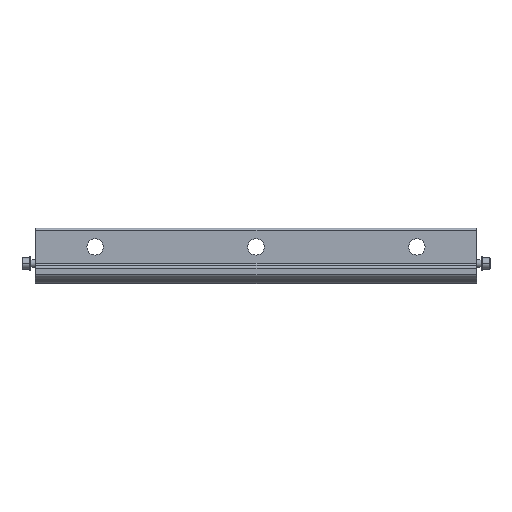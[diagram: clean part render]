
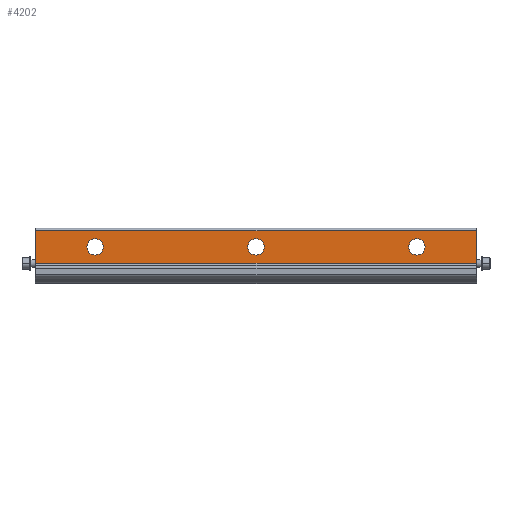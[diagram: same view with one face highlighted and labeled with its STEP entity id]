
A CAD part, top view. The second image highlights one B-rep face of the part: STEP entity #4202.
In plain terms, the highlighted planar face has unit normal (0, 0, 1).
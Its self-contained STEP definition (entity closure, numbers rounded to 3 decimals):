
#126 = FACE_BOUND ( 'NONE', #8736, .T. ) ;
#158 = VERTEX_POINT ( 'NONE', #2900 ) ;
#203 = DIRECTION ( 'NONE',  ( 0., -1., 0. ) ) ;
#274 = VERTEX_POINT ( 'NONE', #4742 ) ;
#410 = LINE ( 'NONE', #2142, #7614 ) ;
#610 = LINE ( 'NONE', #8501, #6999 ) ;
#707 = CIRCLE ( 'NONE', #2917, 10.325 ) ;
#795 = VERTEX_POINT ( 'NONE', #5736 ) ;
#866 = DIRECTION ( 'NONE',  ( 0., 0., -1. ) ) ;
#918 = ORIENTED_EDGE ( 'NONE', *, *, #9045, .T. ) ;
#925 = DIRECTION ( 'NONE',  ( 0., 0., -1. ) ) ;
#1091 = DIRECTION ( 'NONE',  ( 0., 0., -1. ) ) ;
#1095 = DIRECTION ( 'NONE',  ( -1., 0., 0. ) ) ;
#1195 = CARTESIAN_POINT ( 'NONE',  ( 277.978, 66.675, 11.43 ) ) ;
#1288 = CARTESIAN_POINT ( 'NONE',  ( 213.525, 46.355, 11.43 ) ) ;
#1452 = DIRECTION ( 'NONE',  ( 0., -1., 0. ) ) ;
#1475 = CARTESIAN_POINT ( 'NONE',  ( 203.2, 46.355, 11.43 ) ) ;
#1499 = LINE ( 'NONE', #1195, #8434 ) ;
#1504 = CARTESIAN_POINT ( 'NONE',  ( -213.525, 46.355, 11.43 ) ) ;
#1526 = EDGE_CURVE ( 'NONE', #8950, #6944, #1499, .T. ) ;
#1627 = DIRECTION ( 'NONE',  ( 0., 0., -1. ) ) ;
#1645 = EDGE_LOOP ( 'NONE', ( #8435, #6945 ) ) ;
#1657 = ORIENTED_EDGE ( 'NONE', *, *, #8068, .T. ) ;
#1668 = FACE_BOUND ( 'NONE', #1645, .T. ) ;
#1746 = ORIENTED_EDGE ( 'NONE', *, *, #3424, .F. ) ;
#2032 = DIRECTION ( 'NONE',  ( 0., 0., -1. ) ) ;
#2126 = VECTOR ( 'NONE', #203, 1000. ) ;
#2142 = CARTESIAN_POINT ( 'NONE',  ( 277.978, 26.035, 11.43 ) ) ;
#2307 = CARTESIAN_POINT ( 'NONE',  ( -10.325, 46.355, 11.43 ) ) ;
#2508 = FACE_BOUND ( 'NONE', #9061, .T. ) ;
#2772 = ORIENTED_EDGE ( 'NONE', *, *, #8589, .T. ) ;
#2900 = CARTESIAN_POINT ( 'NONE',  ( 10.325, 46.355, 11.43 ) ) ;
#2917 = AXIS2_PLACEMENT_3D ( 'NONE', #7590, #6886, #4474 ) ;
#3115 = AXIS2_PLACEMENT_3D ( 'NONE', #6996, #866, #8608 ) ;
#3135 = CARTESIAN_POINT ( 'NONE',  ( 192.875, 46.355, 11.43 ) ) ;
#3367 = ORIENTED_EDGE ( 'NONE', *, *, #9021, .T. ) ;
#3424 = EDGE_CURVE ( 'NONE', #8950, #6965, #610, .T. ) ;
#4003 = DIRECTION ( 'NONE',  ( 0., 1., 0. ) ) ;
#4202 = ADVANCED_FACE ( 'NONE', ( #126, #1668, #2508, #9509 ), #7243, .F. ) ;
#4231 = DIRECTION ( 'NONE',  ( 0., 0., -1. ) ) ;
#4352 = CARTESIAN_POINT ( 'NONE',  ( 203.2, 46.355, 11.43 ) ) ;
#4474 = DIRECTION ( 'NONE',  ( 0., 1., 0. ) ) ;
#4487 = CARTESIAN_POINT ( 'NONE',  ( -277.978, 69.85, 11.43 ) ) ;
#4520 = EDGE_CURVE ( 'NONE', #795, #9784, #6832, .T. ) ;
#4597 = AXIS2_PLACEMENT_3D ( 'NONE', #7859, #925, #6334 ) ;
#4742 = CARTESIAN_POINT ( 'NONE',  ( -277.978, 26.035, 11.43 ) ) ;
#5097 = VERTEX_POINT ( 'NONE', #2307 ) ;
#5153 = EDGE_CURVE ( 'NONE', #9784, #795, #9741, .T. ) ;
#5351 = CIRCLE ( 'NONE', #6307, 10.325 ) ;
#5695 = EDGE_CURVE ( 'NONE', #7867, #9763, #8040, .T. ) ;
#5736 = CARTESIAN_POINT ( 'NONE',  ( -192.875, 46.355, 11.43 ) ) ;
#6083 = LINE ( 'NONE', #4487, #2126 ) ;
#6181 = EDGE_LOOP ( 'NONE', ( #1746, #9809, #1657, #3367 ) ) ;
#6307 = AXIS2_PLACEMENT_3D ( 'NONE', #8624, #4231, #6388 ) ;
#6334 = DIRECTION ( 'NONE',  ( 0., 1., 0. ) ) ;
#6388 = DIRECTION ( 'NONE',  ( 0., 1., 0. ) ) ;
#6392 = ORIENTED_EDGE ( 'NONE', *, *, #4520, .T. ) ;
#6636 = CARTESIAN_POINT ( 'NONE',  ( 277.978, 66.675, 11.43 ) ) ;
#6812 = DIRECTION ( 'NONE',  ( 0., 1., 0. ) ) ;
#6832 = CIRCLE ( 'NONE', #8130, 10.325 ) ;
#6886 = DIRECTION ( 'NONE',  ( 0., 0., -1. ) ) ;
#6944 = VERTEX_POINT ( 'NONE', #8385 ) ;
#6945 = ORIENTED_EDGE ( 'NONE', *, *, #8408, .T. ) ;
#6965 = VERTEX_POINT ( 'NONE', #9337 ) ;
#6996 = CARTESIAN_POINT ( 'NONE',  ( -203.2, 46.355, 11.43 ) ) ;
#6999 = VECTOR ( 'NONE', #1452, 1000. ) ;
#7243 = PLANE ( 'NONE',  #4597 ) ;
#7590 = CARTESIAN_POINT ( 'NONE',  ( 0., 46.355, 11.43 ) ) ;
#7614 = VECTOR ( 'NONE', #9048, 1000. ) ;
#7859 = CARTESIAN_POINT ( 'NONE',  ( 277.978, 69.85, 11.43 ) ) ;
#7867 = VERTEX_POINT ( 'NONE', #1288 ) ;
#7879 = AXIS2_PLACEMENT_3D ( 'NONE', #1475, #1627, #6812 ) ;
#8040 = CIRCLE ( 'NONE', #7879, 10.325 ) ;
#8068 = EDGE_CURVE ( 'NONE', #6944, #274, #6083, .T. ) ;
#8130 = AXIS2_PLACEMENT_3D ( 'NONE', #8745, #1091, #4003 ) ;
#8325 = DIRECTION ( 'NONE',  ( 0., 1., 0. ) ) ;
#8385 = CARTESIAN_POINT ( 'NONE',  ( -277.978, 66.675, 11.43 ) ) ;
#8408 = EDGE_CURVE ( 'NONE', #9763, #7867, #9685, .T. ) ;
#8434 = VECTOR ( 'NONE', #1095, 1000. ) ;
#8435 = ORIENTED_EDGE ( 'NONE', *, *, #5695, .T. ) ;
#8501 = CARTESIAN_POINT ( 'NONE',  ( 277.978, 69.85, 11.43 ) ) ;
#8589 = EDGE_CURVE ( 'NONE', #5097, #158, #5351, .T. ) ;
#8608 = DIRECTION ( 'NONE',  ( 0., 1., 0. ) ) ;
#8624 = CARTESIAN_POINT ( 'NONE',  ( 0., 46.355, 11.43 ) ) ;
#8736 = EDGE_LOOP ( 'NONE', ( #6392, #8850 ) ) ;
#8745 = CARTESIAN_POINT ( 'NONE',  ( -203.2, 46.355, 11.43 ) ) ;
#8850 = ORIENTED_EDGE ( 'NONE', *, *, #5153, .T. ) ;
#8950 = VERTEX_POINT ( 'NONE', #6636 ) ;
#9021 = EDGE_CURVE ( 'NONE', #274, #6965, #410, .T. ) ;
#9045 = EDGE_CURVE ( 'NONE', #158, #5097, #707, .T. ) ;
#9048 = DIRECTION ( 'NONE',  ( 1., 0., 0. ) ) ;
#9061 = EDGE_LOOP ( 'NONE', ( #918, #2772 ) ) ;
#9337 = CARTESIAN_POINT ( 'NONE',  ( 277.978, 26.035, 11.43 ) ) ;
#9362 = AXIS2_PLACEMENT_3D ( 'NONE', #4352, #2032, #8325 ) ;
#9509 = FACE_OUTER_BOUND ( 'NONE', #6181, .T. ) ;
#9685 = CIRCLE ( 'NONE', #9362, 10.325 ) ;
#9741 = CIRCLE ( 'NONE', #3115, 10.325 ) ;
#9763 = VERTEX_POINT ( 'NONE', #3135 ) ;
#9784 = VERTEX_POINT ( 'NONE', #1504 ) ;
#9809 = ORIENTED_EDGE ( 'NONE', *, *, #1526, .T. ) ;
